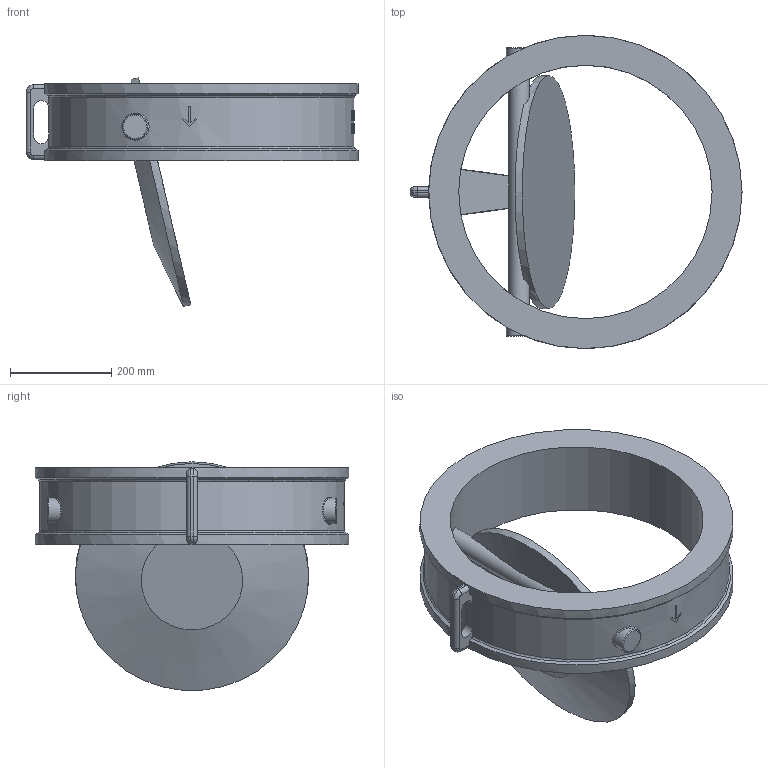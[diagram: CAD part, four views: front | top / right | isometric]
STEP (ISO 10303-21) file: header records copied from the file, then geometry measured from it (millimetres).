
FILE_DESCRIPTION( ( 'Unknown' ), '1' );
FILE_NAME( 'C:/Documents and Settings/Klaus/My Documents/Rootsi BPS 3D, Klaus/BPS 6530 tilting disc check valve/STEP/BPS6530500 tilting disc check valve DN500.stp', 'Unknown', ( 'Unknown' ), ( 'Unknown' ), 'PSStep 10.1', 'Unknown', ' ' );
FILE_SCHEMA( ( 'AUTOMOTIVE_DESIGN { 1 0 10303 214 1 1 1 1 }' ) );
Length unit declared in the file: millimetre
Products named in the file (1): 1
Bounding box: 655 x 618 x 450.77 mm (x, y, z)
Volume: 19956633.3 mm3; surface area: 1156625.3 mm2
Topology: 1 solids, 1 shells, 224 faces, 549 edges, 359 vertices
Faces by surface type: plane 83, bspline 82, cylinder 51, cone 4, torus 4
Full cylindrical faces by diameter (mm): 40 x1, 460 x1, 500 x1, 618 x2
Entity records: 26515 total; most frequent: CARTESIAN_POINT 20588, ORIENTED_EDGE 1044, EDGE_CURVE 522, DIRECTION 432, B_SPLINE_CURVE_WITH_KNOTS 427, VERTEX_POINT 351, EDGE_LOOP 283, FACE_OUTER_BOUND 241
